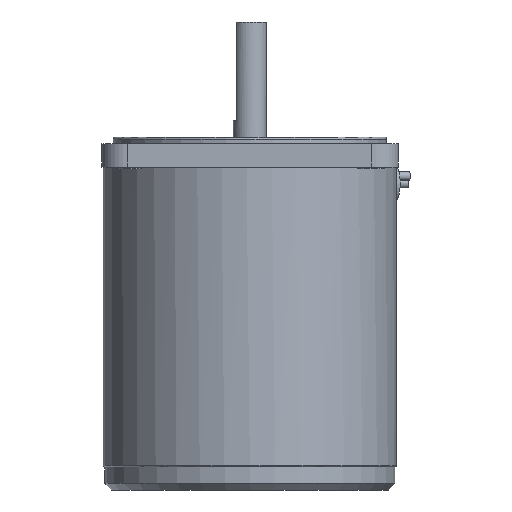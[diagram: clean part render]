
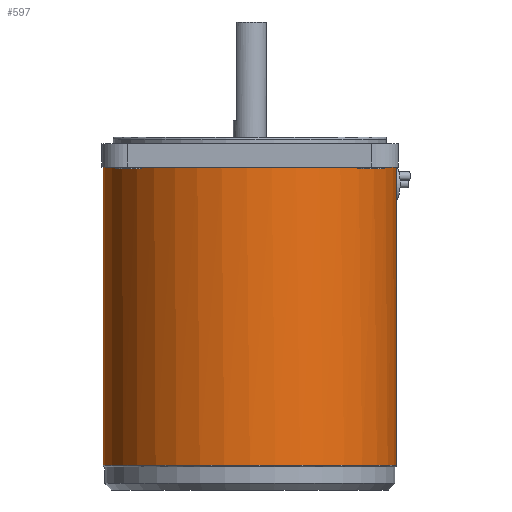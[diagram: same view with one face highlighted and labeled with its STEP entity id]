
A CAD part, front view. The second image highlights one B-rep face of the part: STEP entity #597.
In plain terms, the highlighted cylindrical face has radius 44.5 mm (diameter 89 mm), a full revolution.
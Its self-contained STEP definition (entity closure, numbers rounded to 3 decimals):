
#391=CARTESIAN_POINT('',(39.344,20.792,98.));
#392=VERTEX_POINT('',#391);
#400=CARTESIAN_POINT('',(42.523,13.118,98.));
#401=VERTEX_POINT('',#400);
#408=CARTESIAN_POINT('',(39.344,20.792,98.0));
#409=CARTESIAN_POINT('',(39.271,20.931,97.871));
#410=CARTESIAN_POINT('',(39.201,21.062,97.735));
#411=CARTESIAN_POINT('',(38.858,21.694,97.02));
#412=CARTESIAN_POINT('',(38.608,22.132,96.29));
#413=CARTESIAN_POINT('',(38.27,22.71,94.689));
#414=CARTESIAN_POINT('',(38.184,22.852,93.817));
#415=CARTESIAN_POINT('',(38.184,22.852,92.183));
#416=CARTESIAN_POINT('',(38.27,22.71,91.311));
#417=CARTESIAN_POINT('',(38.608,22.132,89.71));
#418=CARTESIAN_POINT('',(38.858,21.694,88.98));
#419=CARTESIAN_POINT('',(39.41,20.675,87.827));
#420=CARTESIAN_POINT('',(39.748,20.025,87.327));
#421=CARTESIAN_POINT('',(40.444,18.58,86.664));
#422=CARTESIAN_POINT('',(40.8,17.785,86.5));
#423=CARTESIAN_POINT('',(41.425,16.274,86.5));
#424=CARTESIAN_POINT('',(41.736,15.46,86.664));
#425=CARTESIAN_POINT('',(42.266,13.946,87.327));
#426=CARTESIAN_POINT('',(42.486,13.247,87.827));
#427=CARTESIAN_POINT('',(42.817,12.137,88.98));
#428=CARTESIAN_POINT('',(42.949,11.65,89.71));
#429=CARTESIAN_POINT('',(43.12,11.002,91.311));
#430=CARTESIAN_POINT('',(43.159,10.842,92.183));
#431=CARTESIAN_POINT('',(43.159,10.842,93.));
#432=CARTESIAN_POINT('',(43.159,10.842,93.817));
#433=CARTESIAN_POINT('',(43.12,11.002,94.689));
#434=CARTESIAN_POINT('',(42.949,11.65,96.29));
#435=CARTESIAN_POINT('',(42.817,12.137,97.02));
#436=CARTESIAN_POINT('',(42.612,12.826,97.735));
#437=CARTESIAN_POINT('',(42.569,12.968,97.871));
#438=CARTESIAN_POINT('',(42.523,13.118,98.0));
#439=B_SPLINE_CURVE_WITH_KNOTS('',3,(#408,#409,#410,#411,#412,#413,#414,#415,#416,#417,#418,#419,#420,#421,#422,#423,#424,#425,#426,#427,#428,#429,#430,#431,#432,#433,#434,#435,#436,#437,#438),.UNSPECIFIED.,.F.,.U.,(4,2,2,2,2,2,2,2,2,2,2,3,2,2,4),(-2.511,-2.452,-2.207,-1.962,-1.717,-1.471,-1.226,-0.981,-0.736,-0.49,-0.245,0.0,0.245,0.49,0.55),.UNSPECIFIED.);
#440=EDGE_CURVE('',#392,#401,#439,.T.);
#566=CARTESIAN_POINT('',(0.0,0.0,98.0));
#567=DIRECTION('',(0.0,0.0,1.0));
#568=DIRECTION('',(0.618,-0.786,0.0));
#569=AXIS2_PLACEMENT_3D('',#566,#567,#568);
#570=CIRCLE('',#569,44.5);
#571=EDGE_CURVE('',#392,#401,#570,.T.);
#577=CARTESIAN_POINT('',(0.0,0.0,0.0));
#578=DIRECTION('',(0.0,0.0,1.0));
#579=DIRECTION('',(-1.0,0.0,0.0));
#580=AXIS2_PLACEMENT_3D('',#577,#578,#579);
#581=CYLINDRICAL_SURFACE('',#580,44.5);
#582=CARTESIAN_POINT('',(-44.5,0.,7.5));
#583=VERTEX_POINT('',#582);
#584=CARTESIAN_POINT('',(0.0,0.0,7.5));
#585=DIRECTION('',(0.0,0.0,-1.0));
#586=DIRECTION('',(1.0,0.0,0.0));
#587=AXIS2_PLACEMENT_3D('',#584,#585,#586);
#588=CIRCLE('',#587,44.5);
#589=EDGE_CURVE('',#583,#583,#588,.T.);
#590=ORIENTED_EDGE('',*,*,#589,.F.);
#591=EDGE_LOOP('',(#590));
#592=FACE_OUTER_BOUND('',#591,.T.);
#593=ORIENTED_EDGE('',*,*,#440,.T.);
#594=ORIENTED_EDGE('',*,*,#571,.F.);
#595=EDGE_LOOP('',(#593,#594));
#596=FACE_BOUND('',#595,.T.);
#597=ADVANCED_FACE('',(#592,#596),#581,.T.);
